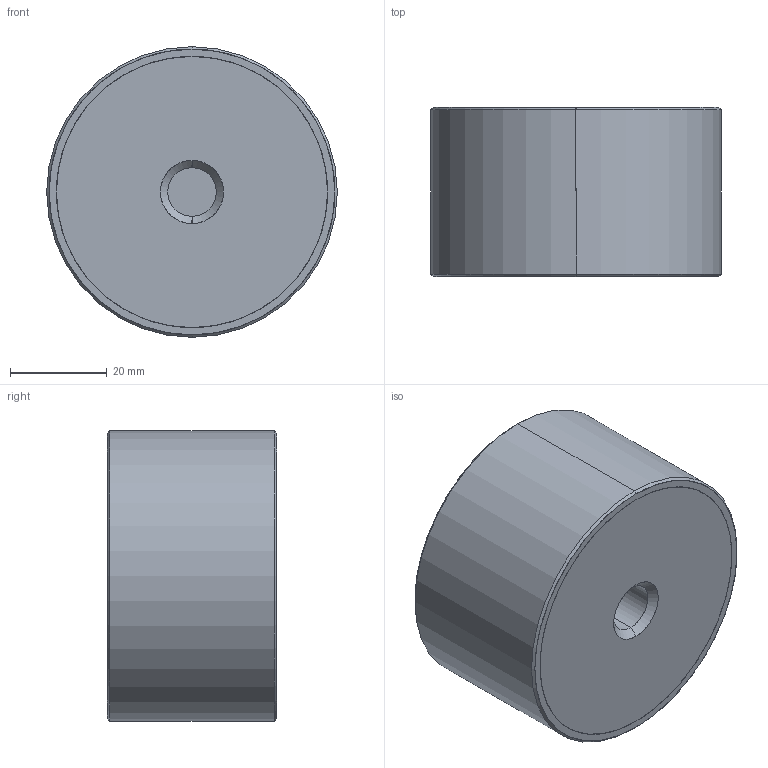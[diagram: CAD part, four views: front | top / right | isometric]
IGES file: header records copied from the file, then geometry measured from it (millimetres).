
Start section: SolidWorks IGES file using analytic representation for surfaces
Global section: file name: E:\WIXROYD 20180701\61080_v2\61080_v2_20180409_IGES\61080.W0601.igs; native system: SolidWorks 2017; preprocessor: SolidWorks 2017; author: liam_; date: 180716.214539; units: millimetre
Bounding box: 60 x 35 x 60 mm (x, y, z)
Surface area: 23313.6 mm2 (no closed solid volume)
Topology: 0 solids, 0 shells, 32 faces, 984 edges, 984 vertices
Faces by surface type: revolution 22, bspline 10
